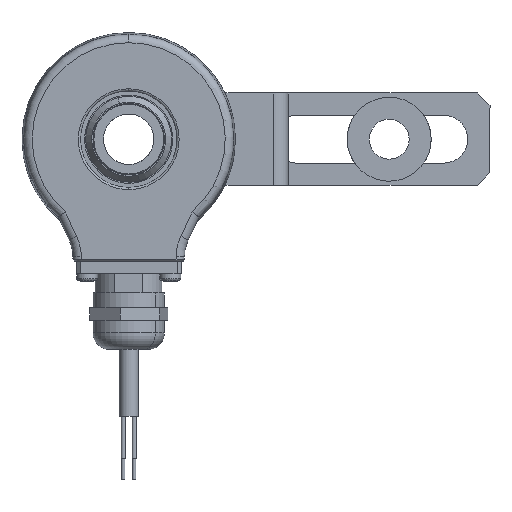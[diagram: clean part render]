
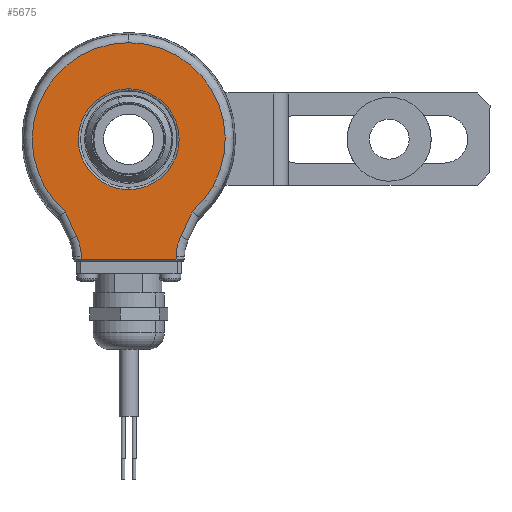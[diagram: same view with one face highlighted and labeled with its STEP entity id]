
A CAD part, left-side view. The second image highlights one B-rep face of the part: STEP entity #5675.
In plain terms, the highlighted planar face has unit normal (-1, 0, 0).
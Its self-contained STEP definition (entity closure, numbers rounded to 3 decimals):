
#5187 = VERTEX_POINT ( 'NONE', #17377 ) ;
#5189 = EDGE_CURVE ( 'NONE', #5190, #5187, #17375, .T. ) ;
#5190 = VERTEX_POINT ( 'NONE', #17376 ) ;
#5538 = EDGE_CURVE ( 'NONE', #5539, #5540, #18621, .T. ) ;
#5539 = VERTEX_POINT ( 'NONE', #18616 ) ;
#5540 = VERTEX_POINT ( 'NONE', #18615 ) ;
#5555 = EDGE_CURVE ( 'NONE', #5540, #5593, #18575, .T. ) ;
#5565 = VERTEX_POINT ( 'NONE', #18520 ) ;
#5572 = VERTEX_POINT ( 'NONE', #18513 ) ;
#5574 = EDGE_CURVE ( 'NONE', #5617, #5572, #18512, .T. ) ;
#5593 = VERTEX_POINT ( 'NONE', #11238 ) ;
#5605 = VERTEX_POINT ( 'NONE', #11133 ) ;
#5607 = EDGE_CURVE ( 'NONE', #5572, #5605, #11255, .T. ) ;
#5613 = EDGE_CURVE ( 'NONE', #5605, #5539, #11215, .T. ) ;
#5617 = VERTEX_POINT ( 'NONE', #11205 ) ;
#5666 = VERTEX_POINT ( 'NONE', #11480 ) ;
#5674 = EDGE_CURVE ( 'NONE', #5187, #5190, #11373, .T. ) ;
#5675 = ADVANCED_FACE ( 'NONE', ( #11368, #11367 ), #11450, .F. ) ;
#5676 = EDGE_LOOP ( 'NONE', ( #5974, #5975 ) ) ;
#5688 = EDGE_CURVE ( 'NONE', #6069, #5666, #11339, .T. ) ;
#5723 = EDGE_CURVE ( 'NONE', #5593, #5565, #11686, .T. ) ;
#5837 = EDGE_CURVE ( 'NONE', #5565, #6069, #11958, .T. ) ;
#5959 = ORIENTED_EDGE ( 'NONE', *, *, #5607, .T. ) ;
#5960 = ORIENTED_EDGE ( 'NONE', *, *, #5613, .T. ) ;
#5961 = ORIENTED_EDGE ( 'NONE', *, *, #5538, .T. ) ;
#5962 = ORIENTED_EDGE ( 'NONE', *, *, #5555, .T. ) ;
#5963 = ORIENTED_EDGE ( 'NONE', *, *, #5723, .T. ) ;
#5974 = ORIENTED_EDGE ( 'NONE', *, *, #5189, .T. ) ;
#5975 = ORIENTED_EDGE ( 'NONE', *, *, #5674, .T. ) ;
#5976 = EDGE_LOOP ( 'NONE', ( #6034, #6035, #6036, #6038, #5959, #5960, #5961, #5962, #5963 ) ) ;
#6034 = ORIENTED_EDGE ( 'NONE', *, *, #5837, .T. ) ;
#6035 = ORIENTED_EDGE ( 'NONE', *, *, #5688, .T. ) ;
#6036 = ORIENTED_EDGE ( 'NONE', *, *, #6037, .T. ) ;
#6037 = EDGE_CURVE ( 'NONE', #5666, #5617, #12532, .T. ) ;
#6038 = ORIENTED_EDGE ( 'NONE', *, *, #5574, .T. ) ;
#6069 = VERTEX_POINT ( 'NONE', #12705 ) ;
#11129 = DIRECTION ( 'NONE',  ( 0., -0.423, 0.906 ) ) ;
#11130 = VECTOR ( 'NONE', #11129, 1000. ) ;
#11131 = CARTESIAN_POINT ( 'NONE',  ( -21., -14.953, -17.615 ) ) ;
#11133 = CARTESIAN_POINT ( 'NONE',  ( -21., -15.091, -17.32 ) ) ;
#11205 = CARTESIAN_POINT ( 'NONE',  ( -21., -11.268, -27.974 ) ) ;
#11211 = DIRECTION ( 'NONE',  ( 0., 0., 1. ) ) ;
#11212 = DIRECTION ( 'NONE',  ( -1., 0., 0. ) ) ;
#11213 = CARTESIAN_POINT ( 'NONE',  ( -21., 0., 0. ) ) ;
#11214 = AXIS2_PLACEMENT_3D ( 'NONE', #11213, #11212, #11211 ) ;
#11215 = CIRCLE ( 'NONE', #11214, 22.972 ) ;
#11238 = CARTESIAN_POINT ( 'NONE',  ( -21., 12.39, -23.112 ) ) ;
#11255 = LINE ( 'NONE', #11131, #11130 ) ;
#11331 = DIRECTION ( 'NONE',  ( 0., -1., 0. ) ) ;
#11332 = VECTOR ( 'NONE', #11331, 1000. ) ;
#11333 = CARTESIAN_POINT ( 'NONE',  ( -21., -11.25, -28.695 ) ) ;
#11339 = LINE ( 'NONE', #11333, #11332 ) ;
#11367 = FACE_OUTER_BOUND ( 'NONE', #5976, .T. ) ;
#11368 = FACE_BOUND ( 'NONE', #5676, .T. ) ;
#11369 = DIRECTION ( 'NONE',  ( 0., 0., 1. ) ) ;
#11370 = DIRECTION ( 'NONE',  ( 1., 0., 0. ) ) ;
#11371 = CARTESIAN_POINT ( 'NONE',  ( -21., 0., 0. ) ) ;
#11372 = AXIS2_PLACEMENT_3D ( 'NONE', #11371, #11370, #11369 ) ;
#11373 = CIRCLE ( 'NONE', #11372, 12. ) ;
#11446 = DIRECTION ( 'NONE',  ( 0., 0., 1. ) ) ;
#11447 = DIRECTION ( 'NONE',  ( 1., 0., 0. ) ) ;
#11448 = CARTESIAN_POINT ( 'NONE',  ( -21., 0., 0. ) ) ;
#11449 = AXIS2_PLACEMENT_3D ( 'NONE', #11448, #11447, #11446 ) ;
#11450 = PLANE ( 'NONE',  #11449 ) ;
#11480 = CARTESIAN_POINT ( 'NONE',  ( -21., -11.255, -28.695 ) ) ;
#11682 = DIRECTION ( 'NONE',  ( 0., 0., 1. ) ) ;
#11683 = DIRECTION ( 'NONE',  ( 1., 0., 0. ) ) ;
#11684 = CARTESIAN_POINT ( 'NONE',  ( -21., 23.266, -28.183 ) ) ;
#11685 = AXIS2_PLACEMENT_3D ( 'NONE', #11684, #11683, #11682 ) ;
#11686 = CIRCLE ( 'NONE', #11685, 12. ) ;
#11950 = DIRECTION ( 'NONE',  ( 0., -0.017, -1. ) ) ;
#11951 = VECTOR ( 'NONE', #11950, 1000. ) ;
#11952 = CARTESIAN_POINT ( 'NONE',  ( -21., 11.752, -0.205 ) ) ;
#11958 = LINE ( 'NONE', #11952, #11951 ) ;
#12529 = DIRECTION ( 'NONE',  ( 0., -0.017, 1. ) ) ;
#12530 = VECTOR ( 'NONE', #12529, 1000. ) ;
#12531 = CARTESIAN_POINT ( 'NONE',  ( -21., -11.752, -0.205 ) ) ;
#12532 = LINE ( 'NONE', #12531, #12530 ) ;
#12705 = CARTESIAN_POINT ( 'NONE',  ( -21., 11.255, -28.695 ) ) ;
#17371 = DIRECTION ( 'NONE',  ( 0., 0., 1. ) ) ;
#17372 = DIRECTION ( 'NONE',  ( 1., 0., 0. ) ) ;
#17373 = CARTESIAN_POINT ( 'NONE',  ( -21., 0., 0. ) ) ;
#17374 = AXIS2_PLACEMENT_3D ( 'NONE', #17373, #17372, #17371 ) ;
#17375 = CIRCLE ( 'NONE', #17374, 12. ) ;
#17376 = CARTESIAN_POINT ( 'NONE',  ( -21., 0., 12. ) ) ;
#17377 = CARTESIAN_POINT ( 'NONE',  ( -21., 0., -12. ) ) ;
#18508 = DIRECTION ( 'NONE',  ( 0., 0., 1. ) ) ;
#18509 = DIRECTION ( 'NONE',  ( 1., 0., 0. ) ) ;
#18510 = CARTESIAN_POINT ( 'NONE',  ( -21., -23.266, -28.183 ) ) ;
#18511 = AXIS2_PLACEMENT_3D ( 'NONE', #18510, #18509, #18508 ) ;
#18512 = CIRCLE ( 'NONE', #18511, 12. ) ;
#18513 = CARTESIAN_POINT ( 'NONE',  ( -21., -12.39, -23.112 ) ) ;
#18520 = CARTESIAN_POINT ( 'NONE',  ( -21., 11.268, -27.974 ) ) ;
#18572 = DIRECTION ( 'NONE',  ( 0., -0.423, -0.906 ) ) ;
#18573 = VECTOR ( 'NONE', #18572, 1000. ) ;
#18574 = CARTESIAN_POINT ( 'NONE',  ( -21., 12.39, -23.112 ) ) ;
#18575 = LINE ( 'NONE', #18574, #18573 ) ;
#18615 = CARTESIAN_POINT ( 'NONE',  ( -21., 15.091, -17.32 ) ) ;
#18616 = CARTESIAN_POINT ( 'NONE',  ( -21., 0., 22.972 ) ) ;
#18617 = DIRECTION ( 'NONE',  ( 0., 0., 1. ) ) ;
#18618 = DIRECTION ( 'NONE',  ( -1., 0., 0. ) ) ;
#18619 = CARTESIAN_POINT ( 'NONE',  ( -21., 0., 0. ) ) ;
#18620 = AXIS2_PLACEMENT_3D ( 'NONE', #18619, #18618, #18617 ) ;
#18621 = CIRCLE ( 'NONE', #18620, 22.972 ) ;
